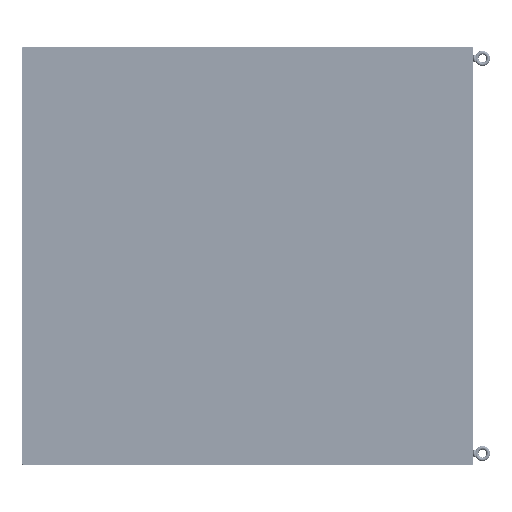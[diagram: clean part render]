
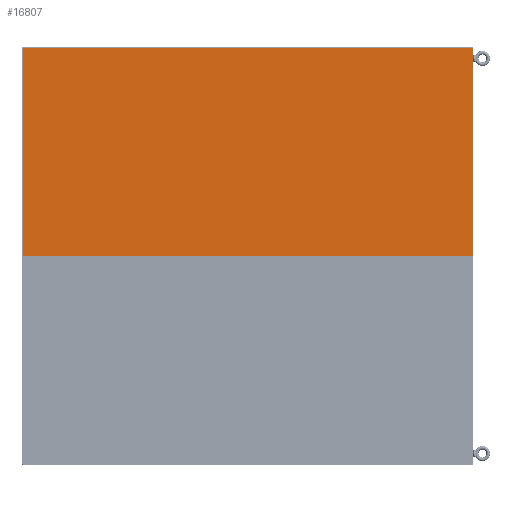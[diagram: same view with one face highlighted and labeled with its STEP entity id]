
A CAD part, left-side view. The second image highlights one B-rep face of the part: STEP entity #16807.
In plain terms, the highlighted planar face has unit normal (-1, 0, 0) as drawn and (0, 0, -1) by its records, which use the part's own axes.
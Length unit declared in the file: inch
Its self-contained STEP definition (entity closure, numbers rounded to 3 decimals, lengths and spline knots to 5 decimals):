
#16564=CARTESIAN_POINT('',(0.03125,-0.03125,-0.104));
#16565=DIRECTION('',(0.,0.,-1.));
#16566=DIRECTION('',(-1.,0.,0.));
#16567=AXIS2_PLACEMENT_3D('',#16564,#16565,#16566);
#16572=DIRECTION('',(0.,1.,0.));
#16573=VECTOR('',#16572,83.7295);
#16574=CARTESIAN_POINT('',(0.,-83.76075,-0.104));
#16575=LINE('',#16574,#16573);
#16579=CARTESIAN_POINT('',(0.03125,-83.76075,-0.104));
#16580=DIRECTION('',(0.,0.,-1.));
#16581=DIRECTION('',(0.,-1.,0.));
#16582=AXIS2_PLACEMENT_3D('',#16579,#16580,#16581);
#16587=DIRECTION('',(1.,0.,0.));
#16588=VECTOR('',#16587,38.7085);
#16589=CARTESIAN_POINT('',(0.03125,-83.792,-0.104));
#16590=LINE('',#16589,#16588);
#16594=CARTESIAN_POINT('',(38.73975,-83.76075,-0.104));
#16595=DIRECTION('',(0.,0.,-1.));
#16596=DIRECTION('',(1.,0.,0.));
#16597=AXIS2_PLACEMENT_3D('',#16594,#16595,#16596);
#16602=DIRECTION('',(0.,1.,0.));
#16603=VECTOR('',#16602,83.7295);
#16604=CARTESIAN_POINT('',(38.771,-83.76075,-0.104));
#16605=LINE('',#16604,#16603);
#16609=CARTESIAN_POINT('',(38.73975,-0.03125,-0.104));
#16610=DIRECTION('',(0.,0.,-1.));
#16611=DIRECTION('',(0.,1.,0.));
#16612=AXIS2_PLACEMENT_3D('',#16609,#16610,#16611);
#16617=DIRECTION('',(-1.,0.,0.));
#16618=VECTOR('',#16617,38.7085);
#16619=CARTESIAN_POINT('',(38.73975,0.,-0.104));
#16620=LINE('',#16619,#16618);
#16628=CARTESIAN_POINT('',(0.,-0.03125,-0.104));
#16629=VERTEX_POINT('',#16628);
#16630=CARTESIAN_POINT('',(0.03125,0.,-0.104));
#16631=VERTEX_POINT('',#16630);
#16636=CARTESIAN_POINT('',(0.03125,-83.792,-0.104));
#16637=VERTEX_POINT('',#16636);
#16638=CARTESIAN_POINT('',(0.,-83.76075,-0.104));
#16639=VERTEX_POINT('',#16638);
#16644=CARTESIAN_POINT('',(38.771,-83.76075,-0.104));
#16645=VERTEX_POINT('',#16644);
#16646=CARTESIAN_POINT('',(38.73975,-83.792,-0.104));
#16647=VERTEX_POINT('',#16646);
#16652=CARTESIAN_POINT('',(38.73975,0.,-0.104));
#16653=VERTEX_POINT('',#16652);
#16654=CARTESIAN_POINT('',(38.771,-0.03125,-0.104));
#16655=VERTEX_POINT('',#16654);
#16792=CARTESIAN_POINT('',(0.,0.,-0.104));
#16793=DIRECTION('',(0.,0.,1.));
#16794=DIRECTION('',(1.,0.,0.));
#16795=AXIS2_PLACEMENT_3D('',#16792,#16793,#16794);
#16796=PLANE('',#16795);
#16797=ORIENTED_EDGE('',*,*,#16688,.F.);
#16798=ORIENTED_EDGE('',*,*,#16704,.F.);
#16799=ORIENTED_EDGE('',*,*,#16717,.F.);
#16800=ORIENTED_EDGE('',*,*,#16732,.T.);
#16801=ORIENTED_EDGE('',*,*,#16745,.F.);
#16802=ORIENTED_EDGE('',*,*,#16760,.T.);
#16803=ORIENTED_EDGE('',*,*,#16773,.F.);
#16804=ORIENTED_EDGE('',*,*,#16785,.T.);
#16805=EDGE_LOOP('',(#16797,#16798,#16799,#16800,#16801,#16802,#16803,#16804));
#16806=FACE_OUTER_BOUND('',#16805,.F.);
#16568=CIRCLE('',#16567,0.03125);
#16583=CIRCLE('',#16582,0.03125);
#16598=CIRCLE('',#16597,0.03125);
#16613=CIRCLE('',#16612,0.03125);
#16688=EDGE_CURVE('',#16629,#16631,#16568,.T.);
#16704=EDGE_CURVE('',#16639,#16629,#16575,.T.);
#16717=EDGE_CURVE('',#16637,#16639,#16583,.T.);
#16732=EDGE_CURVE('',#16637,#16647,#16590,.T.);
#16745=EDGE_CURVE('',#16645,#16647,#16598,.T.);
#16760=EDGE_CURVE('',#16645,#16655,#16605,.T.);
#16773=EDGE_CURVE('',#16653,#16655,#16613,.T.);
#16785=EDGE_CURVE('',#16653,#16631,#16620,.T.);
#16807=ADVANCED_FACE('',(#16806),#16796,.F.);
